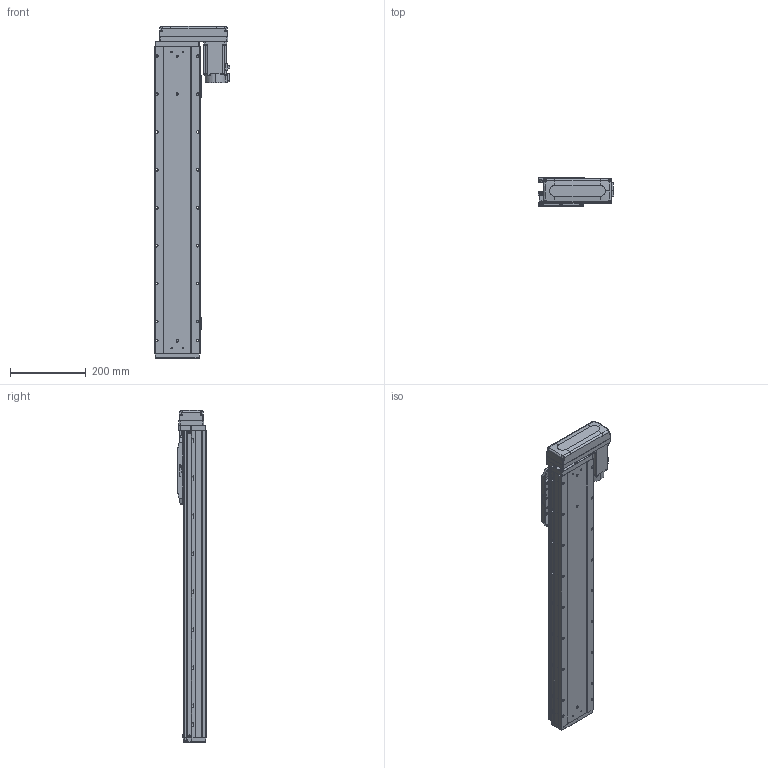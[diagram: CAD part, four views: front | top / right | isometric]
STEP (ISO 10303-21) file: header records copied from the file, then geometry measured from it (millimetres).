
FILE_DESCRIPTION (( 'STEP AP203' ), '1' );
FILE_NAME ('GTH12-600-BL-M40-C4.step', '2023-07-04T10:41:09', ( '微软用户' ), ( '微软中国' ), 'SwSTEP 2.0', 'SolidWorks 2020', '' );
FILE_SCHEMA (( 'CONFIG_CONTROL_DESIGN' ));
Length unit declared in the file: millimetre
Products named in the file (18): GTH120-003; GTH120-027-1_GTH120-027-2; GTH80-022; CTHA86-033_M40B; GTH120-006; GTH12-600-BL-M40-C4; GTH80-028; GTH120-004; GTH50-023; GTH120-013; GTH50-024; GBT 70.1-M3℅6; GBT96.1-2002 3×0.8; GBT 70.1-M5×16; BTH-M3X5X6; GTH120-001_600; GBT 70.3-M3℅8; hg-kn43j_-s100_
Assembly tree (59 placements, depth 2):
  GTH12-600-BL-M40-C4
    GTH120-001_600
    GTH120-003
    GTH120-006
    GTH120-004
    GTH120-013
    GBT 70.1-M3℅6  x14
    GBT 70.1-M5×16  x10
    GBT 70.3-M3℅8  x4
    GTH80-022
    GTH80-028  x2
    GTH50-023  x3
    GTH50-024  x3
    GBT96.1-2002 3×0.8  x6
    BTH-M3X5X6  x8
    hg-kn43j_-s100_
    CTHA86-033_M40B
    GTH120-027-1_GTH120-027-2
Bounding box: 199.8 x 76 x 875.5 mm (x, y, z)
Volume: 6559841.6 mm3; surface area: 617132.3 mm2
Topology: 61 solids, 61 shells, 2451 faces, 5716 edges, 3507 vertices
Faces by surface type: plane 1262, cylinder 709, cone 292, torus 174, sphere 8, bspline 6
Entity records: 45814 total; most frequent: CARTESIAN_POINT 7760, DIRECTION 7584, ORIENTED_EDGE 7042, EDGE_CURVE 3521, AXIS2_PLACEMENT_3D 2652, VECTOR 2280, LINE 2280, VERTEX_POINT 2228
